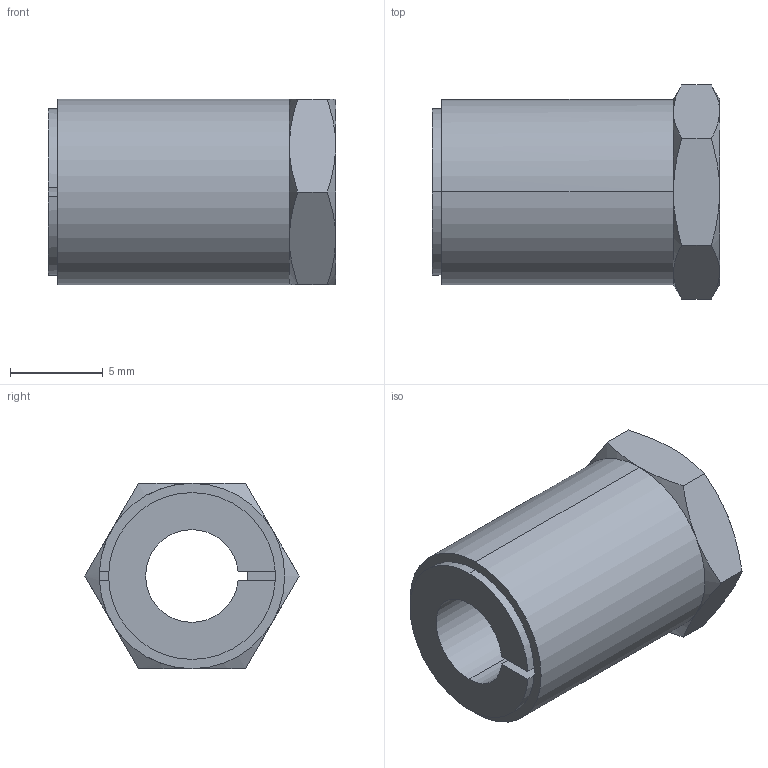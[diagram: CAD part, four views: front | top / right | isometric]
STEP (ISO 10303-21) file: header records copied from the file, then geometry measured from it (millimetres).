
FILE_DESCRIPTION (( 'STEP AP203' ), '1' );
FILE_NAME ('KBS 57 - 5 x 10.STEP', '2015-07-05T18:29:40', ( '' ), ( '' ), 'SwSTEP 2.0', 'SolidWorks 2010', '' );
FILE_SCHEMA (( 'CONFIG_CONTROL_DESIGN' ));
Length unit declared in the file: millimetre
Products named in the file (1): KBS 57 - 5 x 10
Bounding box: 15.5 x 11.55 x 10 mm (x, y, z)
Volume: 900.9 mm3; surface area: 936.6 mm2
Topology: 1 solids, 1 shells, 41 faces, 99 edges, 60 vertices
Faces by surface type: plane 16, cone 15, cylinder 10
Entity records: 1349 total; most frequent: CARTESIAN_POINT 333, ORIENTED_EDGE 198, DIRECTION 196, EDGE_CURVE 99, AXIS2_PLACEMENT_3D 81, VERTEX_POINT 60, EDGE_LOOP 43, ADVANCED_FACE 41
